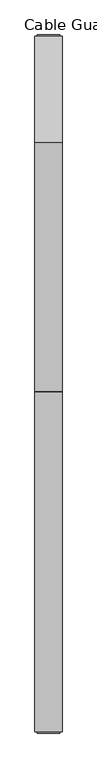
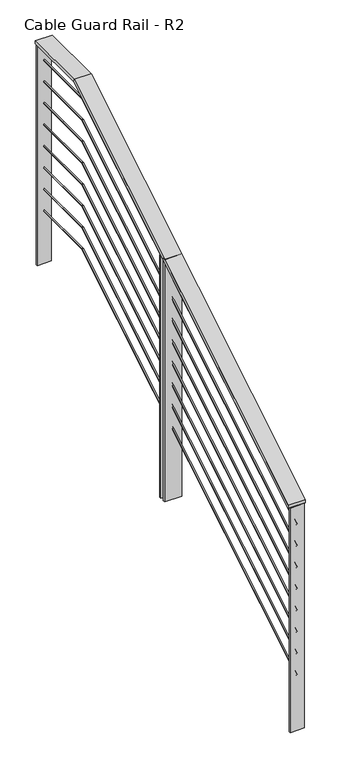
"""IFC4 building model written with IfcOpenShell, lengths in millimetres: railing geometry, Cable Guard Rail - R2."""

from ifc_helpers import new_model, si_unit, frame, origin, place, context, project, spatial, polyline, circle_curve, ellipse_curve, outline, extrude, faceted_brep, source, transform, mapped, element, save
from ifc_brep_helpers import plane_surface, cylinder_surface, advanced_brep


def cable_guard_rail_r2_a9c70364(model_context):
    return source(origin(), model_context, "Body", "SolidModel", [
        faceted_brep([(38084.8651961, 175399.2960038, 293998.0465295), (38008.6651961, 175399.2960038, 293998.0465295), (38008.6651961, 175399.2960038, 293983.1836834), (38084.8651961, 175399.2960038, 293983.1836834), (38084.8651961, 177055.7989086, 295005.125), (38008.6651961, 177055.7989086, 295005.125), (38008.6651961, 177059.3564871, 294992.425), (38084.8651961, 177059.3564871, 294992.425), (38084.8651961, 177355.0960038, 295005.125), (38084.8651961, 177355.0960038, 294992.425), (38008.6651961, 177355.0960038, 294992.425), (38008.6651961, 177355.0960038, 295005.125)], [[[0, 1, 2, 3]], [[1, 0, 4, 5]], [[2, 1, 5, 6]], [[3, 2, 6, 7]], [[0, 3, 7, 4]], [[8, 9, 10, 11]], [[5, 4, 8, 11]], [[6, 5, 11, 10]], [[7, 6, 10, 9]], [[4, 7, 9, 8]]]),
        advanced_brep(
        [(38043.5901961, 175399.2960038, 293896.4465295), (38049.9401961, 175399.2960038, 293896.4465295), (38043.5901961, 177055.7989086, 294903.525), (38049.9401961, 177055.7989086, 294903.525), (38043.5901961, 177355.0960038, 294903.525), (38049.9401961, 177355.0960038, 294903.525)],
        [
            (0, 1, ellipse_curve(frame((38046.7651961, 175399.2960038, 293896.4465295), z_axis=(0.0, -1.0, 0.0), x_axis=(0.0, 0.0, -1.0)), 3.7157115, 3.175)),
            (1, 0, ellipse_curve(frame((38046.7651961, 175399.2960038, 293896.4465295), z_axis=(0.0, -1.0, 0.0), x_axis=(0.0, 0.0, -1.0)), 3.7157115, 3.175)),
            (0, 2),
            (2, 3, ellipse_curve(frame((38046.7651961, 177055.7989086, 294903.525), z_axis=(0.0, -0.9629329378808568, -0.2697409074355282), x_axis=(0.0, 0.2697409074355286, -0.9629329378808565)), 3.2972182, 3.175)),
            (3, 1),
            (3, 2, ellipse_curve(frame((38046.7651961, 177055.7989086, 294903.525), z_axis=(0.0, -0.9629329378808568, -0.2697409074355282), x_axis=(0.0, 0.2697409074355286, -0.9629329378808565)), 3.2972182, 3.175)),
            (4, 5, circle_curve(frame((38046.7651961, 177355.0960038, 294903.525), z_axis=(0.0, 1.0, 0.0), x_axis=(1.0, 0.0, 0.0)), 3.175)),
            (5, 4, circle_curve(frame((38046.7651961, 177355.0960038, 294903.525), z_axis=(0.0, 1.0, 0.0), x_axis=(1.0, 0.0, 0.0)), 3.175)),
            (2, 4),
            (5, 3),
        ],
        [
            plane_surface(frame((38046.7651961, 175399.2960038, 293896.4465295), z_axis=(0.0, -1.0, 0.0), x_axis=(0.0, 0.0, 1.0))),
            cylinder_surface(frame((38046.7651961, 175399.2960038, 293896.4465295), z_axis=(0.0, -0.8544796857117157, -0.5194848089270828), x_axis=(1.0, 0.0, 0.0)), 3.175),
            plane_surface(frame((38046.7651961, 177355.0960038, 294903.525), z_axis=(0.0, 1.0, 0.0), x_axis=(0.0, 0.0, 1.0))),
            cylinder_surface(frame((38046.7651961, 177055.7989086, 294903.525), z_axis=(0.0, -1.0, 0.0), x_axis=(1.0, 0.0, 0.0)), 3.175),
        ],
        [
            (0, [[1, 2]]),
            (1, [[-1, 3, 4, 5]]),
            (1, [[-2, -5, 6, -3]]),
            (2, [[7, 8]]),
            (3, [[-4, 9, -8, 10]]),
            (3, [[-6, -10, -7, -9]]),
        ],
    ),
        advanced_brep(
        [(38043.5901961, 175399.2960038, 293794.8465295), (38049.9401961, 175399.2960038, 293794.8465295), (38043.5901961, 177055.7989086, 294801.925), (38049.9401961, 177055.7989086, 294801.925), (38043.5901961, 177355.0960038, 294801.925), (38049.9401961, 177355.0960038, 294801.925)],
        [
            (0, 1, ellipse_curve(frame((38046.7651961, 175399.2960038, 293794.8465295), z_axis=(0.0, -1.0, 0.0), x_axis=(0.0, 0.0, -1.0)), 3.7157115, 3.175)),
            (1, 0, ellipse_curve(frame((38046.7651961, 175399.2960038, 293794.8465295), z_axis=(0.0, -1.0, 0.0), x_axis=(0.0, 0.0, -1.0)), 3.7157115, 3.175)),
            (0, 2),
            (2, 3, ellipse_curve(frame((38046.7651961, 177055.7989086, 294801.925), z_axis=(0.0, -0.9629329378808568, -0.2697409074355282), x_axis=(0.0, 0.2697409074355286, -0.9629329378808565)), 3.2972182, 3.175)),
            (3, 1),
            (3, 2, ellipse_curve(frame((38046.7651961, 177055.7989086, 294801.925), z_axis=(0.0, -0.9629329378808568, -0.2697409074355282), x_axis=(0.0, 0.2697409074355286, -0.9629329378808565)), 3.2972182, 3.175)),
            (4, 5, circle_curve(frame((38046.7651961, 177355.0960038, 294801.925), z_axis=(0.0, 1.0, 0.0), x_axis=(1.0, 0.0, 0.0)), 3.175)),
            (5, 4, circle_curve(frame((38046.7651961, 177355.0960038, 294801.925), z_axis=(0.0, 1.0, 0.0), x_axis=(1.0, 0.0, 0.0)), 3.175)),
            (2, 4),
            (5, 3),
        ],
        [
            plane_surface(frame((38046.7651961, 175399.2960038, 293794.8465295), z_axis=(0.0, -1.0, 0.0), x_axis=(0.0, 0.0, 1.0))),
            cylinder_surface(frame((38046.7651961, 175399.2960038, 293794.8465295), z_axis=(0.0, -0.8544796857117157, -0.5194848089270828), x_axis=(1.0, 0.0, 0.0)), 3.175),
            plane_surface(frame((38046.7651961, 177355.0960038, 294801.925), z_axis=(0.0, 1.0, 0.0), x_axis=(0.0, 0.0, 1.0))),
            cylinder_surface(frame((38046.7651961, 177055.7989086, 294801.925), z_axis=(0.0, -1.0, 0.0), x_axis=(1.0, 0.0, 0.0)), 3.175),
        ],
        [
            (0, [[1, 2]]),
            (1, [[-1, 3, 4, 5]]),
            (1, [[-2, -5, 6, -3]]),
            (2, [[7, 8]]),
            (3, [[-4, 9, -8, 10]]),
            (3, [[-6, -10, -7, -9]]),
        ],
    ),
        advanced_brep(
        [(38043.5901961, 175399.2960038, 293693.2465295), (38049.9401961, 175399.2960038, 293693.2465295), (38043.5901961, 177055.7989086, 294700.325), (38049.9401961, 177055.7989086, 294700.325), (38043.5901961, 177355.0960038, 294700.325), (38049.9401961, 177355.0960038, 294700.325)],
        [
            (0, 1, ellipse_curve(frame((38046.7651961, 175399.2960038, 293693.2465295), z_axis=(0.0, -1.0, 0.0), x_axis=(0.0, 0.0, -1.0)), 3.7157115, 3.175)),
            (1, 0, ellipse_curve(frame((38046.7651961, 175399.2960038, 293693.2465295), z_axis=(0.0, -1.0, 0.0), x_axis=(0.0, 0.0, -1.0)), 3.7157115, 3.175)),
            (0, 2),
            (2, 3, ellipse_curve(frame((38046.7651961, 177055.7989086, 294700.325), z_axis=(0.0, -0.9629329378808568, -0.2697409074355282), x_axis=(0.0, 0.2697409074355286, -0.9629329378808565)), 3.2972182, 3.175)),
            (3, 1),
            (3, 2, ellipse_curve(frame((38046.7651961, 177055.7989086, 294700.325), z_axis=(0.0, -0.9629329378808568, -0.2697409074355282), x_axis=(0.0, 0.2697409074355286, -0.9629329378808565)), 3.2972182, 3.175)),
            (4, 5, circle_curve(frame((38046.7651961, 177355.0960038, 294700.325), z_axis=(0.0, 1.0, 0.0), x_axis=(1.0, 0.0, 0.0)), 3.175)),
            (5, 4, circle_curve(frame((38046.7651961, 177355.0960038, 294700.325), z_axis=(0.0, 1.0, 0.0), x_axis=(1.0, 0.0, 0.0)), 3.175)),
            (2, 4),
            (5, 3),
        ],
        [
            plane_surface(frame((38046.7651961, 175399.2960038, 293693.2465295), z_axis=(0.0, -1.0, 0.0), x_axis=(0.0, 0.0, 1.0))),
            cylinder_surface(frame((38046.7651961, 175399.2960038, 293693.2465295), z_axis=(0.0, -0.8544796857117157, -0.5194848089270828), x_axis=(1.0, 0.0, 0.0)), 3.175),
            plane_surface(frame((38046.7651961, 177355.0960038, 294700.325), z_axis=(0.0, 1.0, 0.0), x_axis=(0.0, 0.0, 1.0))),
            cylinder_surface(frame((38046.7651961, 177055.7989086, 294700.325), z_axis=(0.0, -1.0, 0.0), x_axis=(1.0, 0.0, 0.0)), 3.175),
        ],
        [
            (0, [[1, 2]]),
            (1, [[-1, 3, 4, 5]]),
            (1, [[-2, -5, 6, -3]]),
            (2, [[7, 8]]),
            (3, [[-4, 9, -8, 10]]),
            (3, [[-6, -10, -7, -9]]),
        ],
    ),
        advanced_brep(
        [(38043.5901961, 175399.2960038, 293591.6465295), (38049.9401961, 175399.2960038, 293591.6465295), (38043.5901961, 177055.7989086, 294598.725), (38049.9401961, 177055.7989086, 294598.725), (38043.5901961, 177355.0960038, 294598.725), (38049.9401961, 177355.0960038, 294598.725)],
        [
            (0, 1, ellipse_curve(frame((38046.7651961, 175399.2960038, 293591.6465295), z_axis=(0.0, -1.0, 0.0), x_axis=(0.0, 0.0, -1.0)), 3.7157115, 3.175)),
            (1, 0, ellipse_curve(frame((38046.7651961, 175399.2960038, 293591.6465295), z_axis=(0.0, -1.0, 0.0), x_axis=(0.0, 0.0, -1.0)), 3.7157115, 3.175)),
            (0, 2),
            (2, 3, ellipse_curve(frame((38046.7651961, 177055.7989086, 294598.725), z_axis=(0.0, -0.9629329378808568, -0.2697409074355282), x_axis=(0.0, 0.2697409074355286, -0.9629329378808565)), 3.2972182, 3.175)),
            (3, 1),
            (3, 2, ellipse_curve(frame((38046.7651961, 177055.7989086, 294598.725), z_axis=(0.0, -0.9629329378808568, -0.2697409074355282), x_axis=(0.0, 0.2697409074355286, -0.9629329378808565)), 3.2972182, 3.175)),
            (4, 5, circle_curve(frame((38046.7651961, 177355.0960038, 294598.725), z_axis=(0.0, 1.0, 0.0), x_axis=(1.0, 0.0, 0.0)), 3.175)),
            (5, 4, circle_curve(frame((38046.7651961, 177355.0960038, 294598.725), z_axis=(0.0, 1.0, 0.0), x_axis=(1.0, 0.0, 0.0)), 3.175)),
            (2, 4),
            (5, 3),
        ],
        [
            plane_surface(frame((38046.7651961, 175399.2960038, 293591.6465295), z_axis=(0.0, -1.0, 0.0), x_axis=(0.0, 0.0, 1.0))),
            cylinder_surface(frame((38046.7651961, 175399.2960038, 293591.6465295), z_axis=(0.0, -0.8544796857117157, -0.5194848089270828), x_axis=(1.0, 0.0, 0.0)), 3.175),
            plane_surface(frame((38046.7651961, 177355.0960038, 294598.725), z_axis=(0.0, 1.0, 0.0), x_axis=(0.0, 0.0, 1.0))),
            cylinder_surface(frame((38046.7651961, 177055.7989086, 294598.725), z_axis=(0.0, -1.0, 0.0), x_axis=(1.0, 0.0, 0.0)), 3.175),
        ],
        [
            (0, [[1, 2]]),
            (1, [[-1, 3, 4, 5]]),
            (1, [[-2, -5, 6, -3]]),
            (2, [[7, 8]]),
            (3, [[-4, 9, -8, 10]]),
            (3, [[-6, -10, -7, -9]]),
        ],
    ),
        advanced_brep(
        [(38043.5901961, 175399.2960038, 293490.0465295), (38049.9401961, 175399.2960038, 293490.0465295), (38043.5901961, 177055.7989086, 294497.125), (38049.9401961, 177055.7989086, 294497.125), (38043.5901961, 177355.0960038, 294497.125), (38049.9401961, 177355.0960038, 294497.125)],
        [
            (0, 1, ellipse_curve(frame((38046.7651961, 175399.2960038, 293490.0465295), z_axis=(0.0, -1.0, 0.0), x_axis=(0.0, 0.0, -1.0)), 3.7157115, 3.175)),
            (1, 0, ellipse_curve(frame((38046.7651961, 175399.2960038, 293490.0465295), z_axis=(0.0, -1.0, 0.0), x_axis=(0.0, 0.0, -1.0)), 3.7157115, 3.175)),
            (0, 2),
            (2, 3, ellipse_curve(frame((38046.7651961, 177055.7989086, 294497.125), z_axis=(0.0, -0.9629329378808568, -0.2697409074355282), x_axis=(0.0, 0.2697409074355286, -0.9629329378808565)), 3.2972182, 3.175)),
            (3, 1),
            (3, 2, ellipse_curve(frame((38046.7651961, 177055.7989086, 294497.125), z_axis=(0.0, -0.9629329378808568, -0.2697409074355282), x_axis=(0.0, 0.2697409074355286, -0.9629329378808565)), 3.2972182, 3.175)),
            (4, 5, circle_curve(frame((38046.7651961, 177355.0960038, 294497.125), z_axis=(0.0, 1.0, 0.0), x_axis=(1.0, 0.0, 0.0)), 3.175)),
            (5, 4, circle_curve(frame((38046.7651961, 177355.0960038, 294497.125), z_axis=(0.0, 1.0, 0.0), x_axis=(1.0, 0.0, 0.0)), 3.175)),
            (2, 4),
            (5, 3),
        ],
        [
            plane_surface(frame((38046.7651961, 175399.2960038, 293490.0465295), z_axis=(0.0, -1.0, 0.0), x_axis=(0.0, 0.0, 1.0))),
            cylinder_surface(frame((38046.7651961, 175399.2960038, 293490.0465295), z_axis=(0.0, -0.8544796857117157, -0.5194848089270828), x_axis=(1.0, 0.0, 0.0)), 3.175),
            plane_surface(frame((38046.7651961, 177355.0960038, 294497.125), z_axis=(0.0, 1.0, 0.0), x_axis=(0.0, 0.0, 1.0))),
            cylinder_surface(frame((38046.7651961, 177055.7989086, 294497.125), z_axis=(0.0, -1.0, 0.0), x_axis=(1.0, 0.0, 0.0)), 3.175),
        ],
        [
            (0, [[1, 2]]),
            (1, [[-1, 3, 4, 5]]),
            (1, [[-2, -5, 6, -3]]),
            (2, [[7, 8]]),
            (3, [[-4, 9, -8, 10]]),
            (3, [[-6, -10, -7, -9]]),
        ],
    ),
        advanced_brep(
        [(38043.5901961, 175399.2960038, 293388.4465295), (38049.9401961, 175399.2960038, 293388.4465295), (38043.5901961, 177055.7989086, 294395.525), (38049.9401961, 177055.7989086, 294395.525), (38043.5901961, 177355.0960038, 294395.525), (38049.9401961, 177355.0960038, 294395.525)],
        [
            (0, 1, ellipse_curve(frame((38046.7651961, 175399.2960038, 293388.4465295), z_axis=(0.0, -1.0, 0.0), x_axis=(0.0, 0.0, -1.0)), 3.7157115, 3.175)),
            (1, 0, ellipse_curve(frame((38046.7651961, 175399.2960038, 293388.4465295), z_axis=(0.0, -1.0, 0.0), x_axis=(0.0, 0.0, -1.0)), 3.7157115, 3.175)),
            (0, 2),
            (2, 3, ellipse_curve(frame((38046.7651961, 177055.7989086, 294395.525), z_axis=(0.0, -0.9629329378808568, -0.2697409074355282), x_axis=(0.0, 0.2697409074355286, -0.9629329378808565)), 3.2972182, 3.175)),
            (3, 1),
            (3, 2, ellipse_curve(frame((38046.7651961, 177055.7989086, 294395.525), z_axis=(0.0, -0.9629329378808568, -0.2697409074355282), x_axis=(0.0, 0.2697409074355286, -0.9629329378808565)), 3.2972182, 3.175)),
            (4, 5, circle_curve(frame((38046.7651961, 177355.0960038, 294395.525), z_axis=(0.0, 1.0, 0.0), x_axis=(1.0, 0.0, 0.0)), 3.175)),
            (5, 4, circle_curve(frame((38046.7651961, 177355.0960038, 294395.525), z_axis=(0.0, 1.0, 0.0), x_axis=(1.0, 0.0, 0.0)), 3.175)),
            (2, 4),
            (5, 3),
        ],
        [
            plane_surface(frame((38046.7651961, 175399.2960038, 293388.4465295), z_axis=(0.0, -1.0, 0.0), x_axis=(0.0, 0.0, 1.0))),
            cylinder_surface(frame((38046.7651961, 175399.2960038, 293388.4465295), z_axis=(0.0, -0.8544796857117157, -0.5194848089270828), x_axis=(1.0, 0.0, 0.0)), 3.175),
            plane_surface(frame((38046.7651961, 177355.0960038, 294395.525), z_axis=(0.0, 1.0, 0.0), x_axis=(0.0, 0.0, 1.0))),
            cylinder_surface(frame((38046.7651961, 177055.7989086, 294395.525), z_axis=(0.0, -1.0, 0.0), x_axis=(1.0, 0.0, 0.0)), 3.175),
        ],
        [
            (0, [[1, 2]]),
            (1, [[-1, 3, 4, 5]]),
            (1, [[-2, -5, 6, -3]]),
            (2, [[7, 8]]),
            (3, [[-4, 9, -8, 10]]),
            (3, [[-6, -10, -7, -9]]),
        ],
    ),
        advanced_brep(
        [(38043.5901961, 175399.2960038, 293286.8465295), (38049.9401961, 175399.2960038, 293286.8465295), (38043.5901961, 177055.7989086, 294293.925), (38049.9401961, 177055.7989086, 294293.925), (38043.5901961, 177355.0960038, 294293.925), (38049.9401961, 177355.0960038, 294293.925)],
        [
            (0, 1, ellipse_curve(frame((38046.7651961, 175399.2960038, 293286.8465295), z_axis=(0.0, -1.0, 0.0), x_axis=(0.0, 0.0, -1.0)), 3.7157115, 3.175)),
            (1, 0, ellipse_curve(frame((38046.7651961, 175399.2960038, 293286.8465295), z_axis=(0.0, -1.0, 0.0), x_axis=(0.0, 0.0, -1.0)), 3.7157115, 3.175)),
            (0, 2),
            (2, 3, ellipse_curve(frame((38046.7651961, 177055.7989086, 294293.925), z_axis=(0.0, -0.9629329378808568, -0.2697409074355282), x_axis=(0.0, 0.2697409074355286, -0.9629329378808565)), 3.2972182, 3.175)),
            (3, 1),
            (3, 2, ellipse_curve(frame((38046.7651961, 177055.7989086, 294293.925), z_axis=(0.0, -0.9629329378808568, -0.2697409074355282), x_axis=(0.0, 0.2697409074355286, -0.9629329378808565)), 3.2972182, 3.175)),
            (4, 5, circle_curve(frame((38046.7651961, 177355.0960038, 294293.925), z_axis=(0.0, 1.0, 0.0), x_axis=(1.0, 0.0, 0.0)), 3.175)),
            (5, 4, circle_curve(frame((38046.7651961, 177355.0960038, 294293.925), z_axis=(0.0, 1.0, 0.0), x_axis=(1.0, 0.0, 0.0)), 3.175)),
            (2, 4),
            (5, 3),
        ],
        [
            plane_surface(frame((38046.7651961, 175399.2960038, 293286.8465295), z_axis=(0.0, -1.0, 0.0), x_axis=(0.0, 0.0, 1.0))),
            cylinder_surface(frame((38046.7651961, 175399.2960038, 293286.8465295), z_axis=(0.0, -0.8544796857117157, -0.5194848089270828), x_axis=(1.0, 0.0, 0.0)), 3.175),
            plane_surface(frame((38046.7651961, 177355.0960038, 294293.925), z_axis=(0.0, 1.0, 0.0), x_axis=(0.0, 0.0, 1.0))),
            cylinder_surface(frame((38046.7651961, 177055.7989086, 294293.925), z_axis=(0.0, -1.0, 0.0), x_axis=(1.0, 0.0, 0.0)), 3.175),
        ],
        [
            (0, [[1, 2]]),
            (1, [[-1, 3, 4, 5]]),
            (1, [[-2, -5, 6, -3]]),
            (2, [[7, 8]]),
            (3, [[-4, 9, -8, 10]]),
            (3, [[-6, -10, -7, -9]]),
        ],
    ),
        advanced_brep(
        [(38043.5901961, 175399.2960038, 293185.2465295), (38049.9401961, 175399.2960038, 293185.2465295), (38043.5901961, 177055.7989086, 294192.325), (38049.9401961, 177055.7989086, 294192.325), (38043.5901961, 177355.0960038, 294192.325), (38049.9401961, 177355.0960038, 294192.325)],
        [
            (0, 1, ellipse_curve(frame((38046.7651961, 175399.2960038, 293185.2465295), z_axis=(0.0, -1.0, 0.0), x_axis=(0.0, 0.0, -1.0)), 3.7157115, 3.175)),
            (1, 0, ellipse_curve(frame((38046.7651961, 175399.2960038, 293185.2465295), z_axis=(0.0, -1.0, 0.0), x_axis=(0.0, 0.0, -1.0)), 3.7157115, 3.175)),
            (0, 2),
            (2, 3, ellipse_curve(frame((38046.7651961, 177055.7989086, 294192.325), z_axis=(0.0, -0.9629329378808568, -0.2697409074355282), x_axis=(0.0, 0.2697409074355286, -0.9629329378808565)), 3.2972182, 3.175)),
            (3, 1),
            (3, 2, ellipse_curve(frame((38046.7651961, 177055.7989086, 294192.325), z_axis=(0.0, -0.9629329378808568, -0.2697409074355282), x_axis=(0.0, 0.2697409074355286, -0.9629329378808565)), 3.2972182, 3.175)),
            (4, 5, circle_curve(frame((38046.7651961, 177355.0960038, 294192.325), z_axis=(0.0, 1.0, 0.0), x_axis=(1.0, 0.0, 0.0)), 3.175)),
            (5, 4, circle_curve(frame((38046.7651961, 177355.0960038, 294192.325), z_axis=(0.0, 1.0, 0.0), x_axis=(1.0, 0.0, 0.0)), 3.175)),
            (2, 4),
            (5, 3),
        ],
        [
            plane_surface(frame((38046.7651961, 175399.2960038, 293185.2465295), z_axis=(0.0, -1.0, 0.0), x_axis=(0.0, 0.0, 1.0))),
            cylinder_surface(frame((38046.7651961, 175399.2960038, 293185.2465295), z_axis=(0.0, -0.8544796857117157, -0.5194848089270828), x_axis=(1.0, 0.0, 0.0)), 3.175),
            plane_surface(frame((38046.7651961, 177355.0960038, 294192.325), z_axis=(0.0, 1.0, 0.0), x_axis=(0.0, 0.0, 1.0))),
            cylinder_surface(frame((38046.7651961, 177055.7989086, 294192.325), z_axis=(0.0, -1.0, 0.0), x_axis=(1.0, 0.0, 0.0)), 3.175),
        ],
        [
            (0, [[1, 2]]),
            (1, [[-1, 3, 4, 5]]),
            (1, [[-2, -5, 6, -3]]),
            (2, [[7, 8]]),
            (3, [[-4, 9, -8, 10]]),
            (3, [[-6, -10, -7, -9]]),
        ],
    ),
        extrude(outline(polyline([(38008.6651961, 176354.9710038), (38008.6651961, 176364.4960038), (38084.8651961, 176364.4960038), (38084.8651961, 176354.9710038), (38008.6651961, 176354.9710038)])), frame((0.0, 0.0, 293435.0875), z_axis=(0.0, 0.0, 1.0), x_axis=(1.0, 0.0, 0.0)), (0.0, 0.0, 1.0), 1144.7777795),
        extrude(outline(polyline([(38008.6651961, 176383.5460038), (38008.6651961, 176393.0227684), (38084.8651961, 176393.0227684), (38084.8651961, 176383.5460038), (38008.6651961, 176383.5460038)])), frame((0.0, 0.0, 293435.0875), z_axis=(0.0, 0.0, 1.0), x_axis=(1.0, 0.0, 0.0)), (0.0, 0.0, 1.0), 1144.7777795),
        extrude(outline(polyline([(38015.0151961, 177351.9210038), (38015.0151961, 177358.2710038), (38078.5151961, 177358.2710038), (38078.5151961, 177351.9210038), (38015.0151961, 177351.9210038)])), frame((0.0, 0.0, 293944.675), z_axis=(0.0, 0.0, 1.0), x_axis=(1.0, 0.0, 0.0)), (0.0, 0.0, 1.0), 1047.75),
        extrude(outline(polyline([(38015.0151961, 175396.1210038), (38015.0151961, 175402.4710038), (38078.5151961, 175402.4710038), (38078.5151961, 175396.1210038), (38015.0151961, 175396.1210038)])), frame((0.0, 0.0, 292925.5), z_axis=(0.0, 0.0, 1.0), x_axis=(1.0, 0.0, 0.0)), (0.0, 0.0, 1.0), 1059.8465295),
    ])


if __name__ == "__main__":
    model = new_model("IFC4")
    model_context = context("Model", 3, world=origin())
    ifc_project = project(units=[si_unit("LENGTHUNIT", "METRE", prefix="MILLI")], contexts=[model_context])
    site = spatial("IfcSite", under=ifc_project)
    building = spatial("IfcBuilding", under=site)
    placement = place(None, origin())
    cable_guard_rail_r2_shape = cable_guard_rail_r2_a9c70364(model_context)
    element("IfcRailing", 1, ObjectType="Cable Guard Rail - R2", at=placement, inside=building, context=model_context, shape_type="MappedRepresentation", body=[
        mapped(cable_guard_rail_r2_shape, transform((0.0, 0.0, 0.0), x_axis=(1.0, 0.0, 0.0), y_axis=(0.0, 1.0, 0.0), z_axis=(0.0, 0.0, 1.0))),
    ])
    save(model, "model.ifc")
